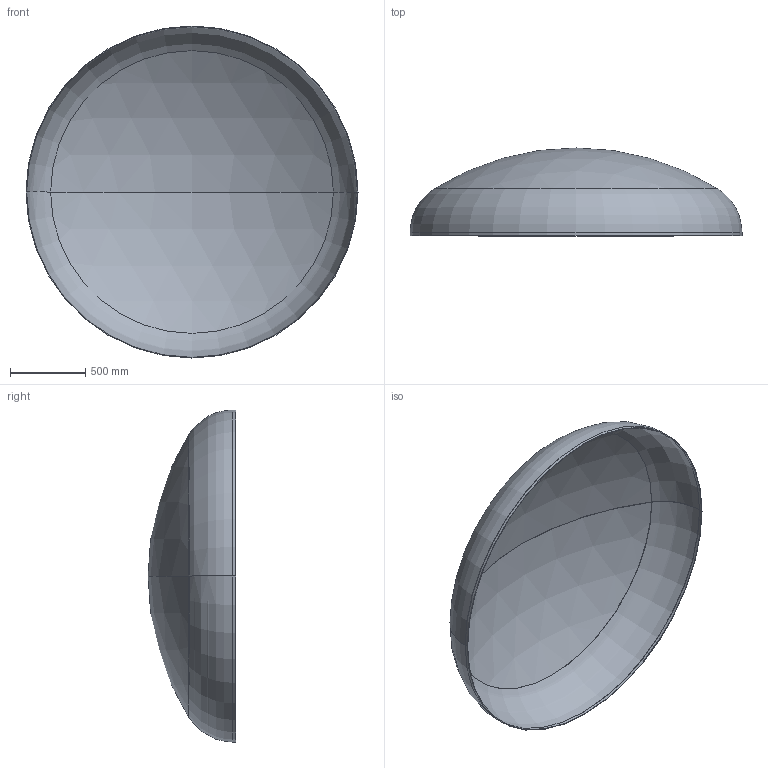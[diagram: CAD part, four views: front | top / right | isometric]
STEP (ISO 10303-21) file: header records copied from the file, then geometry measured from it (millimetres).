
FILE_DESCRIPTION (( 'STEP AP203' ), '1' );
FILE_NAME ('DIN 28013 Korbbogenform_-_Boden DIN 28013 - 2200 x 20 - I - s=4.step', '2016-07-01T14:15:25', ( '' ), ( '' ), 'SwSTEP 2.0', 'SolidWorks 2013', '' );
FILE_SCHEMA (( 'CONFIG_CONTROL_DESIGN' ));
Length unit declared in the file: millimetre
Products named in the file (1): DIN 28013 Korbbogenform_-_Boden DIN 28013 - 2200 x 20 - I - s=4
Bounding box: 2200 x 581.98 x 2200 mm (x, y, z)
Volume: 21576933.7 mm3; surface area: 10816091.7 mm2
Topology: 1 solids, 1 shells, 13 faces, 24 edges, 14 vertices
Faces by surface type: torus 4, cylinder 4, sphere 4, plane 1
Entity records: 407 total; most frequent: DIRECTION 72, CARTESIAN_POINT 52, ORIENTED_EDGE 48, AXIS2_PLACEMENT_3D 34, EDGE_CURVE 24, CIRCLE 20, VERTEX_POINT 14, EDGE_LOOP 14
